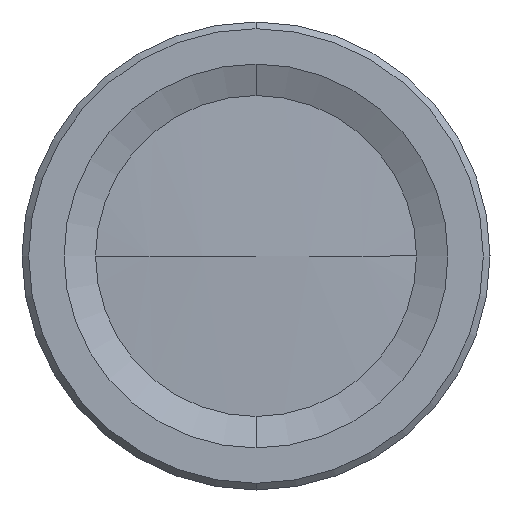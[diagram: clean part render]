
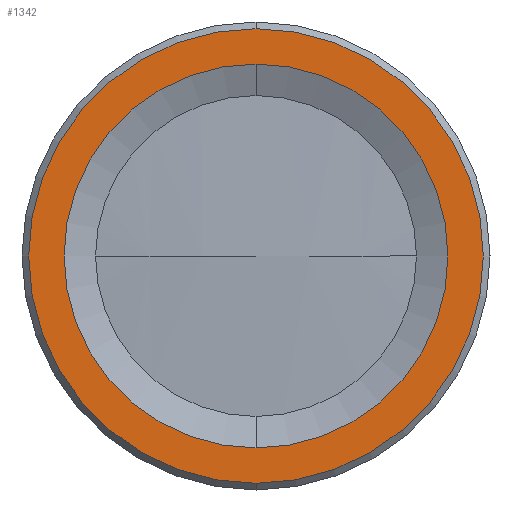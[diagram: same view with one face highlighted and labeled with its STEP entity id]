
A CAD part, left-side view. The second image highlights one B-rep face of the part: STEP entity #1342.
In plain terms, the highlighted planar face has unit normal (-1, 0, 0).
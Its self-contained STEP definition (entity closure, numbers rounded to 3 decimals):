
#152 = AXIS2_PLACEMENT_3D ( 'NONE', #2541, #2201, #4836 ) ;
#219 = VERTEX_POINT ( 'NONE', #3466 ) ;
#276 = AXIS2_PLACEMENT_3D ( 'NONE', #3911, #2055, #889 ) ;
#639 = AXIS2_PLACEMENT_3D ( 'NONE', #1754, #2050, #3985 ) ;
#778 = EDGE_CURVE ( 'NONE', #219, #2808, #3400, .T. ) ;
#791 = EDGE_LOOP ( 'NONE', ( #1373, #1047 ) ) ;
#866 = EDGE_CURVE ( 'NONE', #4548, #2001, #1662, .T. ) ;
#889 = DIRECTION ( 'NONE',  ( 0., 0., -1. ) ) ;
#1032 = FACE_OUTER_BOUND ( 'NONE', #791, .T. ) ;
#1047 = ORIENTED_EDGE ( 'NONE', *, *, #778, .F. ) ;
#1054 = FACE_BOUND ( 'NONE', #4189, .T. ) ;
#1342 = ADVANCED_FACE ( 'NONE', ( #1054, #1032 ), #3658, .T. ) ;
#1373 = ORIENTED_EDGE ( 'NONE', *, *, #4698, .F. ) ;
#1385 = DIRECTION ( 'NONE',  ( 0., 0., -1. ) ) ;
#1542 = AXIS2_PLACEMENT_3D ( 'NONE', #2356, #1631, #4262 ) ;
#1631 = DIRECTION ( 'NONE',  ( 1., 0., 0. ) ) ;
#1662 = CIRCLE ( 'NONE', #639, 5.742 ) ;
#1724 = DIRECTION ( 'NONE',  ( 1., 0., 0. ) ) ;
#1754 = CARTESIAN_POINT ( 'NONE',  ( 292.64, 103.036, 0. ) ) ;
#1932 = CIRCLE ( 'NONE', #1542, 5.742 ) ;
#2001 = VERTEX_POINT ( 'NONE', #4903 ) ;
#2042 = ORIENTED_EDGE ( 'NONE', *, *, #4395, .T. ) ;
#2050 = DIRECTION ( 'NONE',  ( 1., 0., 0. ) ) ;
#2055 = DIRECTION ( 'NONE',  ( 1., 0., 0. ) ) ;
#2201 = DIRECTION ( 'NONE',  ( -1., 0., 0. ) ) ;
#2356 = CARTESIAN_POINT ( 'NONE',  ( 292.64, 103.036, 0. ) ) ;
#2541 = CARTESIAN_POINT ( 'NONE',  ( 292.64, 88.351, 0. ) ) ;
#2808 = VERTEX_POINT ( 'NONE', #3291 ) ;
#2941 = ORIENTED_EDGE ( 'NONE', *, *, #866, .T. ) ;
#3291 = CARTESIAN_POINT ( 'NONE',  ( 292.64, 103.036, -6.8 ) ) ;
#3400 = CIRCLE ( 'NONE', #3646, 6.8 ) ;
#3415 = CARTESIAN_POINT ( 'NONE',  ( 292.64, 103.036, -5.742 ) ) ;
#3466 = CARTESIAN_POINT ( 'NONE',  ( 292.64, 103.036, 6.8 ) ) ;
#3613 = CARTESIAN_POINT ( 'NONE',  ( 292.64, 103.036, 0. ) ) ;
#3646 = AXIS2_PLACEMENT_3D ( 'NONE', #3613, #1724, #1385 ) ;
#3658 = PLANE ( 'NONE',  #152 ) ;
#3683 = CIRCLE ( 'NONE', #276, 6.8 ) ;
#3911 = CARTESIAN_POINT ( 'NONE',  ( 292.64, 103.036, 0. ) ) ;
#3985 = DIRECTION ( 'NONE',  ( 0., 0., -1. ) ) ;
#4189 = EDGE_LOOP ( 'NONE', ( #2042, #2941 ) ) ;
#4262 = DIRECTION ( 'NONE',  ( 0., 0., -1. ) ) ;
#4395 = EDGE_CURVE ( 'NONE', #2001, #4548, #1932, .T. ) ;
#4548 = VERTEX_POINT ( 'NONE', #3415 ) ;
#4698 = EDGE_CURVE ( 'NONE', #2808, #219, #3683, .T. ) ;
#4836 = DIRECTION ( 'NONE',  ( 0., 0., 1. ) ) ;
#4903 = CARTESIAN_POINT ( 'NONE',  ( 292.64, 103.036, 5.742 ) ) ;
